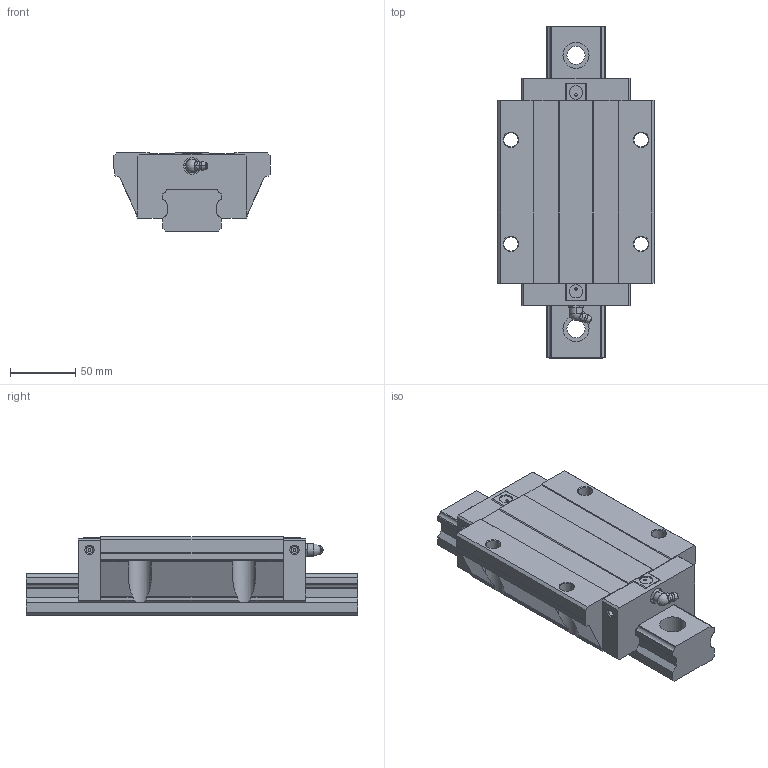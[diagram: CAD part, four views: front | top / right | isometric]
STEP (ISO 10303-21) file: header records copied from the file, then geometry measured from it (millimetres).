
FILE_DESCRIPTION(/* description */ (''),/* implementation_level */ '2;1');
FILE_NAME(/* name */ 'SME45-LEA',/* time_stamp */ '2008-10-06T10:38:23+08:00',/* author */ (''),/* organization */ (''),/* preprocessor_version */ 'ST-DEVELOPER v11',/* originating_system */ 'UGS - NX 5.0',/* authorisation */ '');
FILE_SCHEMA (('AUTOMOTIVE_DESIGN { 1 0 10303 214 1 1 1 1 }'));
Length unit declared in the file: millimetre
Products named in the file (1): jillBD1Calp1
Bounding box: 120 x 255 x 60 mm (x, y, z)
Volume: 1018371.8 mm3; surface area: 121685.8 mm2
Topology: 3 solids, 3 shells, 226 faces, 584 edges, 382 vertices
Faces by surface type: plane 138, cylinder 64, cone 10, torus 10, bspline 2, sphere 2
Full cylindrical faces by diameter (mm): 2 x6, 5.2 x4, 10.2 x4, 10.9 x4, 13 x2, 14 x3, 20 x3
Entity records: 7164 total; most frequent: CARTESIAN_POINT 1389, DIRECTION 1132, ORIENTED_EDGE 1086, EDGE_CURVE 543, AXIS2_PLACEMENT_3D 396, VERTEX_POINT 377, LINE 340, VECTOR 340
